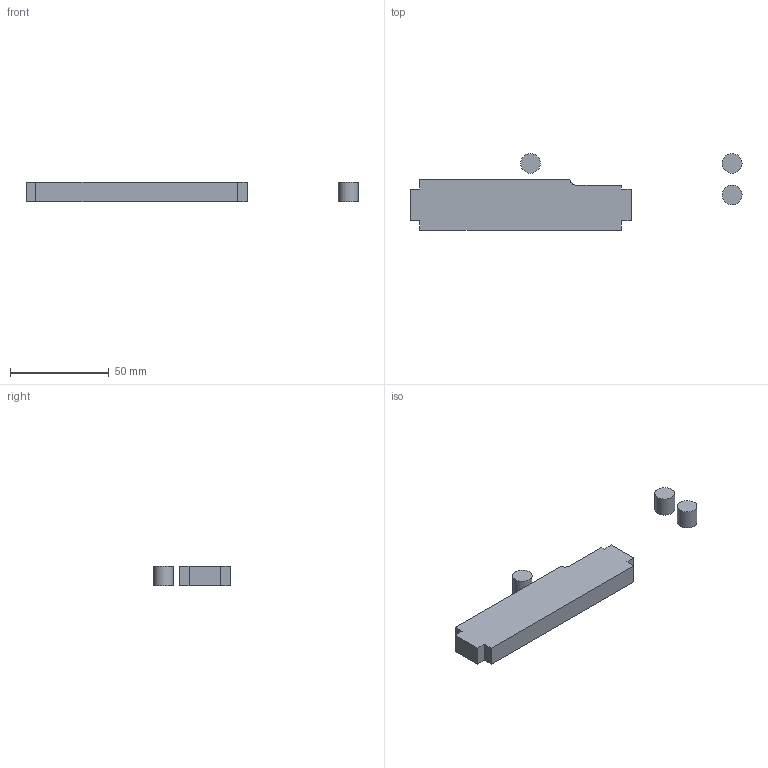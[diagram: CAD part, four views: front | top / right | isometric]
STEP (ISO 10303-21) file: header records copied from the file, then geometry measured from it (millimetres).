
FILE_DESCRIPTION(('Open CASCADE Model'),'2;1');
FILE_NAME('Open CASCADE Shape Model','2026-08-09T09:37:39',('Author'),( 'Open CASCADE'),'Open CASCADE STEP processor 7.9','Open CASCADE 7.9' ,'Unknown');
FILE_SCHEMA(('AUTOMOTIVE_DESIGN { 1 0 10303 214 1 1 1 1 }'));
Length unit declared in the file: millimetre
Products named in the file (5): Open CASCADE STEP translator 7.9 1; Open CASCADE STEP translator 7.9 1.1; Open CASCADE STEP translator 7.9 1.2; Open CASCADE STEP translator 7.9 1.3; Open CASCADE STEP translator 7.9 1.4
Assembly tree (4 placements, depth 2):
  Open CASCADE STEP translator 7.9 1
    Open CASCADE STEP translator 7.9 1.1
    Open CASCADE STEP translator 7.9 1.2
    Open CASCADE STEP translator 7.9 1.3
    Open CASCADE STEP translator 7.9 1.4
Bounding box: 168.45 x 39 x 10 mm (x, y, z)
Volume: 29789 mm3; surface area: 9653.4 mm2
Topology: 4 solids, 4 shells, 25 faces, 51 edges, 34 vertices
Faces by surface type: plane 21, cylinder 4
Full cylindrical faces by diameter (mm): 10 x3
Entity records: 1382 total; most frequent: CARTESIAN_POINT 245, DIRECTION 203, LINE 121, VECTOR 121, ORIENTED_EDGE 102, PCURVE 102, DEFINITIONAL_REPRESENTATION 102, EDGE_CURVE 51
